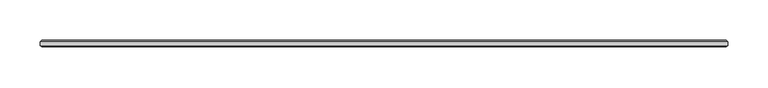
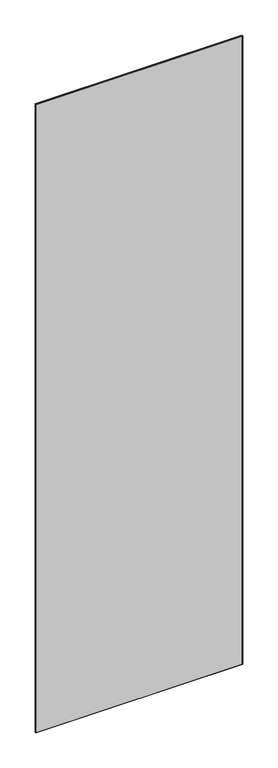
"""IFC4 building model written with IfcOpenShell, lengths in millimetres: plate geometry, 1-AMG-1-Панель одинарный витраж 8, 10 : Смещение 32 Толщина 8mm."""

from ifc_helpers import new_model, si_unit, origin, place, context, project, spatial, faceted_brep, source, transform, mapped, element, save


def plate_48e0c3a0(model_context):
    return source(origin(), model_context, "Body", "Brep", [
        faceted_brep([(424.6023438, 29.5038347, 2722.8), (424.6023438, 34.4961653, 2722.8), (-424.6023438, 34.4961653, 2722.8), (-424.6023438, 29.5038347, 2722.8), (424.6023438, 34.4961653, -7.0), (424.6023438, 29.5038347, -7.0), (-424.6023438, 29.5038347, -7.0), (-424.6023438, 34.4961653, -7.0), (-423.0985091, 36.0, 2721.2961653), (423.0985091, 36.0, 2721.2961653), (423.0985091, 36.0, -5.5039422), (-423.0985091, 36.0, -5.5039422), (423.0985091, 28.0, 2721.2961653), (-423.0985091, 28.0, 2721.2961653), (-423.0985091, 28.0, -5.4961653), (423.0985091, 28.0, -5.4961653)], [[[0, 1, 2, 3]], [[4, 5, 6, 7]], [[8, 9, 10, 11]], [[3, 2, 7, 6]], [[12, 13, 14, 15]], [[1, 0, 5, 4]], [[1, 4, 10, 9]], [[5, 0, 12, 15]], [[7, 2, 8, 11]], [[3, 6, 14, 13]], [[0, 3, 13, 12]], [[2, 1, 9, 8]], [[6, 5, 15, 14]], [[4, 7, 11, 10]]]),
    ])


if __name__ == "__main__":
    model = new_model("IFC4")
    model_context = context("Model", 3, world=origin())
    ifc_project = project(units=[si_unit("LENGTHUNIT", "METRE", prefix="MILLI")], contexts=[model_context])
    site = spatial("IfcSite", under=ifc_project)
    building = spatial("IfcBuilding", under=site)
    placement = place(None, origin())
    plate_shape = plate_48e0c3a0(model_context)
    element("IfcPlate", 1, ObjectType="1-AMG-1-Панель одинарный витраж 8, 10 : Смещение 32 Толщина 8mm", at=placement, inside=building, context=model_context, shape_type="MappedRepresentation", body=[
        mapped(plate_shape, transform((0.0, 0.0, 0.0), x_axis=(1.0, 0.0, 0.0), y_axis=(0.0, 1.0, 0.0), z_axis=(0.0, 0.0, 1.0))),
    ])
    save(model, "model.ifc")
